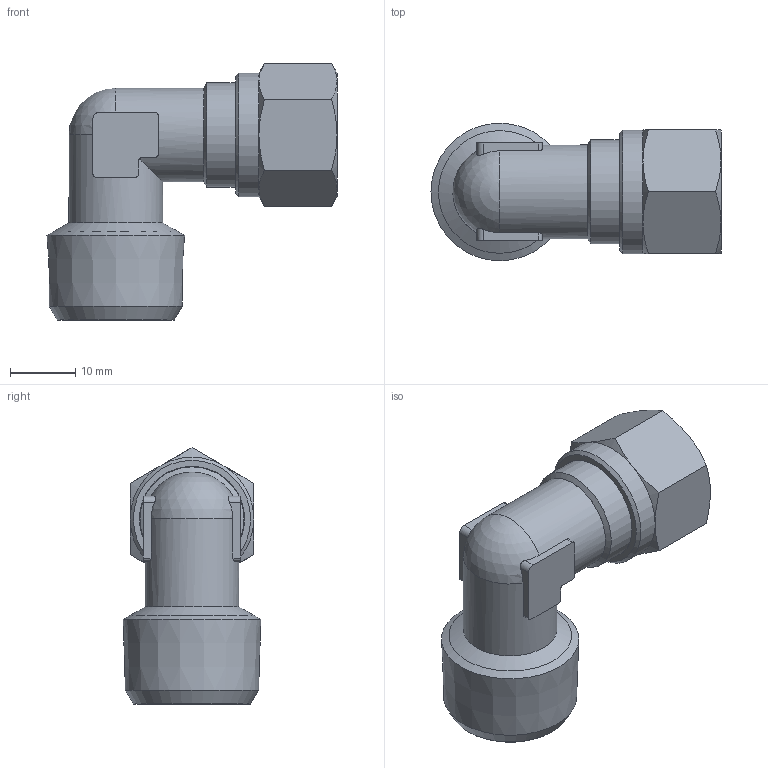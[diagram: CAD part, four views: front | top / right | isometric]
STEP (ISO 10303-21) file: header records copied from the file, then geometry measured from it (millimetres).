
FILE_DESCRIPTION(('Bauteilbeschreibung','HiCAD-Model','HiCAD-STEP-TRANSLATION','Bauteilbeschreibung'),'2;1');
FILE_NAME('B:/ABGLEICH/ZEICHNUNGEN/STEP FÜR INTERNET/STEP/205/92809_205_10_1-2.STP','2011-10-13T08:37:54+00:00',('Konstrukteur'),('Konstrukteur Firma GmbH'),' HiCAD neXt 2008, Step 3.1.1401.2J ','HiCAD neXt 2008','confidential');
FILE_SCHEMA(('AUTOMOTIVE_DESIGN { 1 2 10303 214 0 1 1 1 }'));
Length unit declared in the file: millimetre
Products named in the file (8): A2809_205_10_1_2; A2809; A28090; R 1_2; DIN 13_M16X1_5; A6804; A68040; DIN0130M16X105
Assembly tree (7 placements, depth 3):
  A2809_205_10_1_2
    A2809
    A28090
      R 1_2
      DIN 13_M16X1_5
    A6804
    A68040
      DIN0130M16X105
Bounding box: 44.57 x 21.15 x 39.47 mm (x, y, z)
Volume: 8574.6 mm3; surface area: 10314.5 mm2
Topology: 5 solids, 5 shells, 89 faces, 224 edges, 143 vertices
Faces by surface type: cone 32, plane 29, cylinder 27, sphere 1
Full cylindrical faces by diameter (mm): 9 x1, 10 x3, 14.16 x4, 14.4 x2, 15 x1, 16 x3, 19 x1
Entity records: 5684 total; most frequent: CARTESIAN_POINT 2857, DIRECTION 408, ORIENTED_EDGE 348, AXIS2_PLACEMENT_3D 179, EDGE_CURVE 174, COLOUR_RGB 155, PRESENTATION_STYLE_ASSIGNMENT 155, CURVE_STYLE 150
